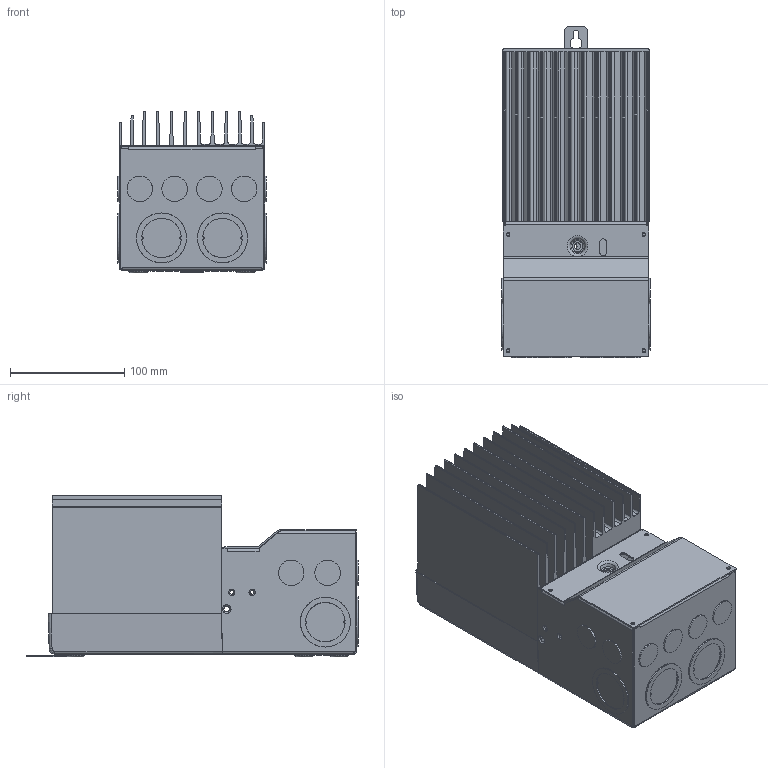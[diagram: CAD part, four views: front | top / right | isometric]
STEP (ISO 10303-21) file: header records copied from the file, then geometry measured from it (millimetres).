
FILE_DESCRIPTION(/* description */ ('Unknown'),/* implementation_level */ '2;1');
FILE_NAME(/* name */ 'TSMPPT_public',/* time_stamp */ '2017-02-22T13:28:21-05:00',/* author */ ('Unknown'),/* organization */ ('Unknown'),/* preprocessor_version */ 'ST-DEVELOPER v16.7',/* originating_system */ 'DEX',/* authorisation */ $);
FILE_SCHEMA (('AUTOMOTIVE_DESIGN {1 0 10303 214 3 1 1}'));
Length unit declared in the file: millimetre
Products named in the file (1): TSMPPT_public
Bounding box: 130 x 290.61 x 141.73 mm (x, y, z)
Volume: 2046792.4 mm3; surface area: 439008.7 mm2
Topology: 3 solids, 3 shells, 484 faces, 1284 edges, 839 vertices
Faces by surface type: cylinder 223, plane 201, torus 24, cone 22, sphere 8, bspline 6
Full cylindrical faces by diameter (mm): 2.489 x4, 3.302 x4, 5.334 x4, 5.512 x1, 5.588 x1, 5.994 x1, 6.909 x1, 22.225 x8, 34.519 x4, 34.544 x2, 43.688 x4
Entity records: 14653 total; most frequent: DIRECTION 2641, CARTESIAN_POINT 2602, ORIENTED_EDGE 2314, EDGE_CURVE 1157, AXIS2_PLACEMENT_3D 1017, VERTEX_POINT 800, EDGE_LOOP 669, FACE_BOUND 669
